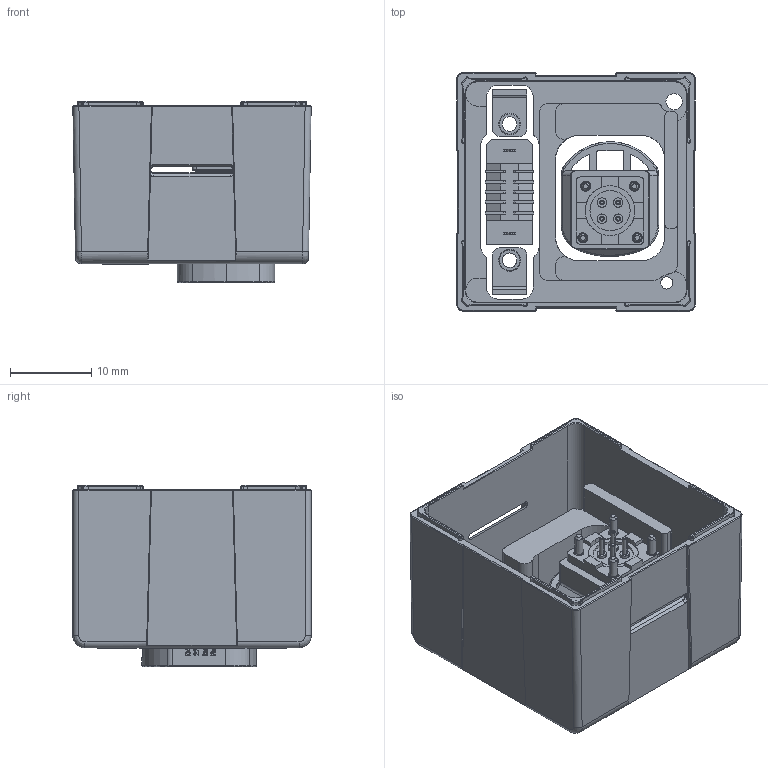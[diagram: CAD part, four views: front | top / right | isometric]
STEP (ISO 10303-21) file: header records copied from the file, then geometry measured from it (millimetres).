
FILE_DESCRIPTION (( 'STEP AP214' ), '1' );
FILE_NAME ('Alvium-GMSL2-STP-Cover.STEP', '2023-04-27T07:32:36', ( '' ), ( '' ), 'SwSTEP 2.0', 'SolidWorks 2021', '' );
FILE_SCHEMA (( 'AUTOMOTIVE_DESIGN' ));
Length unit declared in the file: millimetre
Products named in the file (1): Alvium-GMSL2-STP-Cover
Bounding box: 29.4 x 29.4 x 22.35 mm (x, y, z)
Volume: 4845.4 mm3; surface area: 9117.6 mm2
Topology: 9 solids, 9 shells, 1805 faces, 4804 edges, 3077 vertices
Faces by surface type: plane 867, bspline 474, cylinder 344, cone 106, torus 14
Entity records: 80933 total; most frequent: CARTESIAN_POINT 19025, ORIENTED_EDGE 9560, DIRECTION 7304, EDGE_CURVE 4780, VERTEX_POINT 3077, LINE 2926, VECTOR 2926, AXIS2_PLACEMENT_3D 2189
